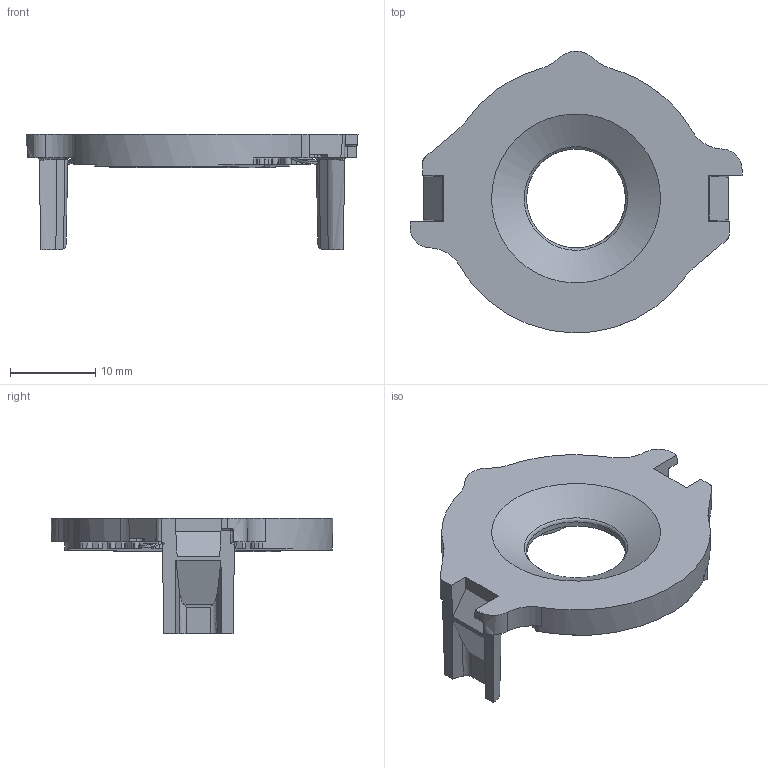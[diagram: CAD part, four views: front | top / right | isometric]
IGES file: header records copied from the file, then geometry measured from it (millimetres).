
Start section: C
Global section: file name: 025-70B-02.igs; native system: By Siemens PLM Incorporated; preprocessor: XPlus GENERIC/IGES 23.0.61; author: Author; organization: Title; date: 20260216.130549; units: millimetre
Bounding box: 39 x 33.09 x 13.6 mm (x, y, z)
Volume: 2201.3 mm3; surface area: 2994.1 mm2
Topology: 1 solids, 1 shells, 669 faces, 1906 edges, 1247 vertices
Faces by surface type: bspline 669
